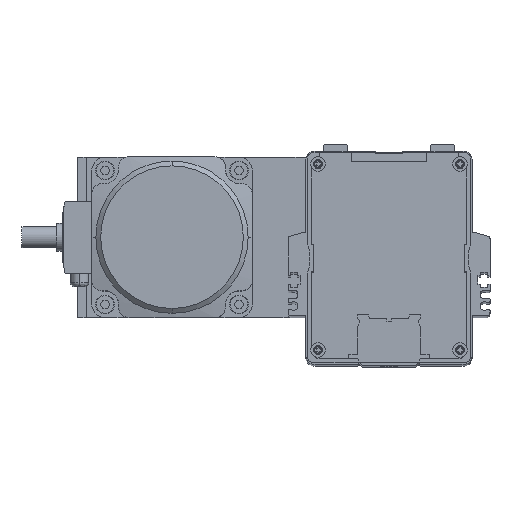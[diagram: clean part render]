
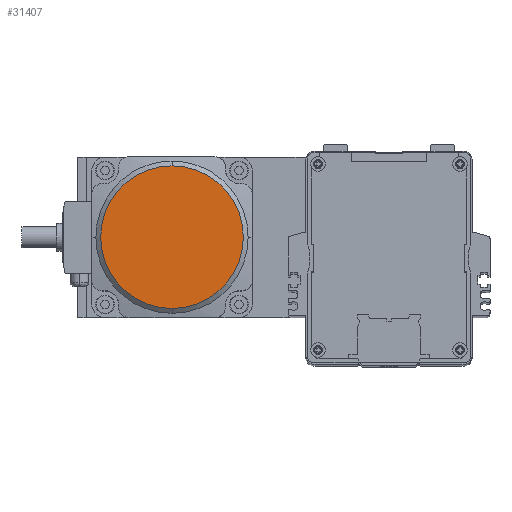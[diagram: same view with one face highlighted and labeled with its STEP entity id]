
A CAD part, top view. The second image highlights one B-rep face of the part: STEP entity #31407.
In plain terms, the highlighted planar face has unit normal (0, 0, 1).
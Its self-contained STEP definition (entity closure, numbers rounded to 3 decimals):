
#16778 = DIRECTION ( 'NONE',  ( 0., 1., 0. ) ) ;
#16779 = DIRECTION ( 'NONE',  ( 0., 0., -1. ) ) ;
#16780 = CARTESIAN_POINT ( 'NONE',  ( 106.19, -4.031, 64. ) ) ;
#16781 = AXIS2_PLACEMENT_3D ( 'NONE', #16780, #16779, #16778 ) ;
#16782 = CIRCLE ( 'NONE', #16781, 26.616 ) ;
#16787 = CARTESIAN_POINT ( 'NONE',  ( 106.19, 22.585, 64. ) ) ;
#16791 = CARTESIAN_POINT ( 'NONE',  ( 106.19, -30.647, 64. ) ) ;
#18920 = CIRCLE ( 'NONE', #18941, 26.616 ) ;
#18921 = CARTESIAN_POINT ( 'NONE',  ( 106.19, -4.031, 64. ) ) ;
#18931 = FACE_OUTER_BOUND ( 'NONE', #31436, .T. ) ;
#18939 = DIRECTION ( 'NONE',  ( 0., 1., 0. ) ) ;
#18940 = DIRECTION ( 'NONE',  ( 0., 0., -1. ) ) ;
#18941 = AXIS2_PLACEMENT_3D ( 'NONE', #18949, #18940, #18939 ) ;
#18949 = CARTESIAN_POINT ( 'NONE',  ( 106.19, -4.031, 64. ) ) ;
#18950 = PLANE ( 'NONE',  #18981 ) ;
#18981 = AXIS2_PLACEMENT_3D ( 'NONE', #18921, #19013, #19012 ) ;
#19012 = DIRECTION ( 'NONE',  ( 0., 1., 0. ) ) ;
#19013 = DIRECTION ( 'NONE',  ( 0., 0., -1. ) ) ;
#30215 = VERTEX_POINT ( 'NONE', #16791 ) ;
#30217 = VERTEX_POINT ( 'NONE', #16787 ) ;
#30218 = EDGE_CURVE ( 'NONE', #30217, #30215, #16782, .T. ) ;
#31380 = EDGE_CURVE ( 'NONE', #30215, #30217, #18920, .T. ) ;
#31405 = ORIENTED_EDGE ( 'NONE', *, *, #31380, .F. ) ;
#31407 = ADVANCED_FACE ( 'NONE', ( #18931 ), #18950, .F. ) ;
#31433 = ORIENTED_EDGE ( 'NONE', *, *, #30218, .F. ) ;
#31436 = EDGE_LOOP ( 'NONE', ( #31433, #31405 ) ) ;
